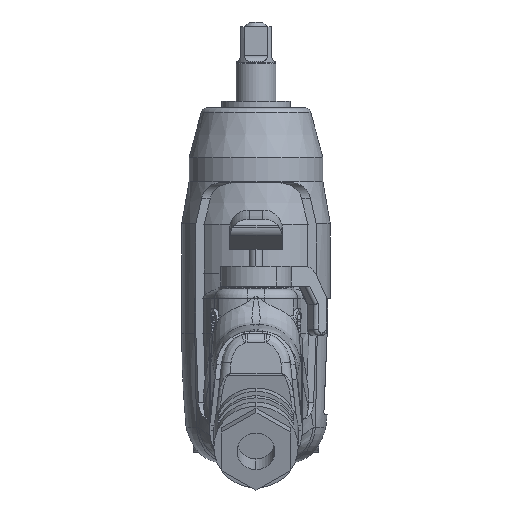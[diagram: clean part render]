
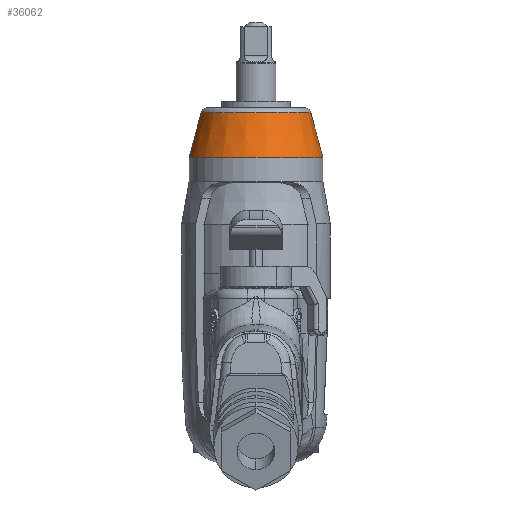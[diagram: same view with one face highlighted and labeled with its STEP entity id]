
A CAD part, front view. The second image highlights one B-rep face of the part: STEP entity #36062.
In plain terms, the highlighted conical face has half-angle 15 degrees and reference radius 16.221 mm.
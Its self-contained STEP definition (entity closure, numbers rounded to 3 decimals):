
#9891 = EDGE_CURVE ( 'NONE', #9893, #9930, #48464, .T. ) ;
#9893 = VERTEX_POINT ( 'NONE', #48455 ) ;
#9930 = VERTEX_POINT ( 'NONE', #48537 ) ;
#10086 = EDGE_CURVE ( 'NONE', #9893, #10125, #50025, .T. ) ;
#10092 = EDGE_CURVE ( 'NONE', #9930, #10119, #50021, .T. ) ;
#10119 = VERTEX_POINT ( 'NONE', #50045 ) ;
#10125 = VERTEX_POINT ( 'NONE', #50039 ) ;
#35940 = EDGE_CURVE ( 'NONE', #10119, #10125, #59196, .T. ) ;
#36011 = ORIENTED_EDGE ( 'NONE', *, *, #35940, .T. ) ;
#36062 = ADVANCED_FACE ( 'NONE', ( #59180 ), #59179, .T. ) ;
#36106 = EDGE_LOOP ( 'NONE', ( #36166, #36164, #36162, #36011 ) ) ;
#36162 = ORIENTED_EDGE ( 'NONE', *, *, #10092, .T. ) ;
#36164 = ORIENTED_EDGE ( 'NONE', *, *, #9891, .T. ) ;
#36166 = ORIENTED_EDGE ( 'NONE', *, *, #10086, .F. ) ;
#48455 = CARTESIAN_POINT ( 'NONE',  ( 16.618, 0., -21.182 ) ) ;
#48456 = DIRECTION ( 'NONE',  ( 1., 0., 0. ) ) ;
#48457 = DIRECTION ( 'NONE',  ( 0., 0., -1. ) ) ;
#48458 = CARTESIAN_POINT ( 'NONE',  ( 0., 0., -21.182 ) ) ;
#48459 = AXIS2_PLACEMENT_3D ( 'NONE', #48458, #48457, #48456 ) ;
#48464 = CIRCLE ( 'NONE', #48459, 16.618 ) ;
#48537 = CARTESIAN_POINT ( 'NONE',  ( -16.618, 0., -21.182 ) ) ;
#50018 = DIRECTION ( 'NONE',  ( -0.259, 0., -0.966 ) ) ;
#50019 = VECTOR ( 'NONE', #50018, 1000. ) ;
#50020 = CARTESIAN_POINT ( 'NONE',  ( -16.221, 0., -19.7 ) ) ;
#50021 = LINE ( 'NONE', #50020, #50019 ) ;
#50022 = DIRECTION ( 'NONE',  ( 0.259, 0., -0.966 ) ) ;
#50023 = VECTOR ( 'NONE', #50022, 1000. ) ;
#50024 = CARTESIAN_POINT ( 'NONE',  ( 16.221, 0., -19.7 ) ) ;
#50025 = LINE ( 'NONE', #50024, #50023 ) ;
#50039 = CARTESIAN_POINT ( 'NONE',  ( 20.25, 0., -34.737 ) ) ;
#50045 = CARTESIAN_POINT ( 'NONE',  ( -20.25, 0., -34.737 ) ) ;
#59175 = DIRECTION ( 'NONE',  ( -1., 0., 0. ) ) ;
#59176 = DIRECTION ( 'NONE',  ( 0., 0., -1. ) ) ;
#59177 = AXIS2_PLACEMENT_3D ( 'NONE', #59185, #59176, #59175 ) ;
#59179 = CONICAL_SURFACE ( 'NONE', #59177, 16.221, 0.262 ) ;
#59180 = FACE_OUTER_BOUND ( 'NONE', #36106, .T. ) ;
#59185 = CARTESIAN_POINT ( 'NONE',  ( 0., 0., -19.7 ) ) ;
#59192 = DIRECTION ( 'NONE',  ( 1., 0., 0. ) ) ;
#59193 = DIRECTION ( 'NONE',  ( 0., 0., 1. ) ) ;
#59194 = CARTESIAN_POINT ( 'NONE',  ( 0., 0., -34.737 ) ) ;
#59195 = AXIS2_PLACEMENT_3D ( 'NONE', #59194, #59193, #59192 ) ;
#59196 = CIRCLE ( 'NONE', #59195, 20.25 ) ;
